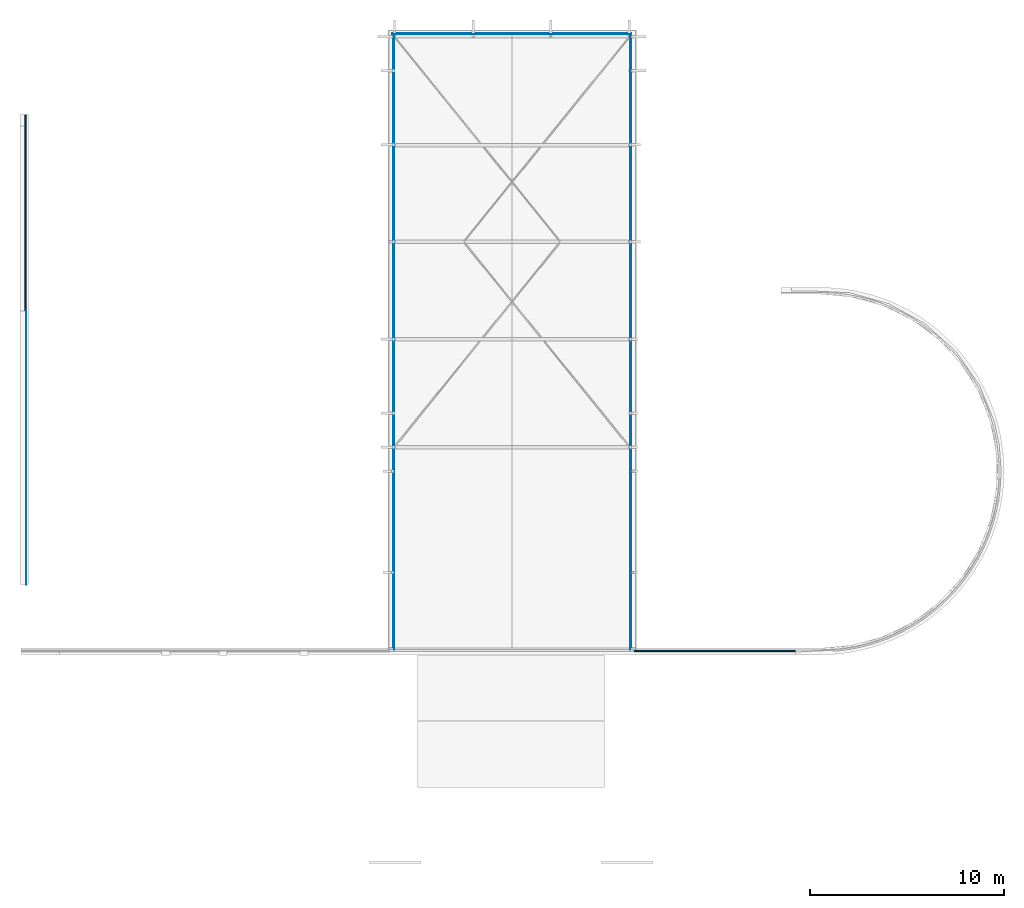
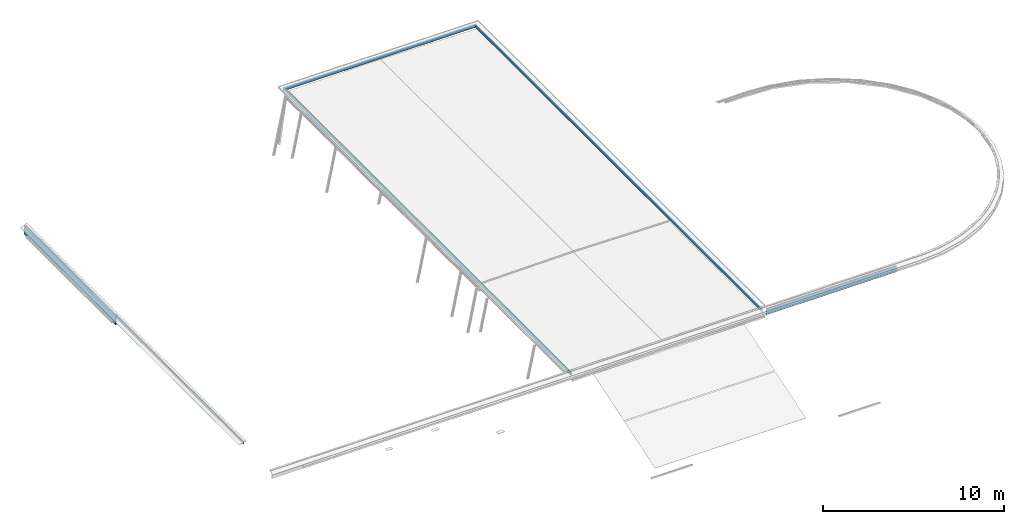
# One storey, part 3 of 5: 11 walls, 2 openings.
"""IFC2X3 building model written with IfcOpenShell, lengths in millimetres."""

from ifc_helpers import new_model, entity, si_unit, converted_unit, derived_unit, direction, frame, frame_2d, origin, place, context, subcontext, project, spatial, polyline, rectangle, extrude, clip, bounded_halfspace, material, layer, layer_set, layer_usage, type_object, element, save


model = new_model("IFC2X3")

# Units and contexts
model_context = context("Model", 3, precision=0.01, world=origin(), true_north=direction((6.12303176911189e-17, 1.0)))
body_context = subcontext(model_context, "Body", "Model", "MODEL_VIEW")
ifc_project = project(units=[si_unit("LENGTHUNIT", "METRE", prefix="MILLI"), si_unit("AREAUNIT", "SQUARE_METRE"), si_unit("VOLUMEUNIT", "CUBIC_METRE"), converted_unit("PLANEANGLEUNIT", "DEGREE", entity("IfcRatioMeasure", 0.0174532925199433), si_unit("PLANEANGLEUNIT", "RADIAN"), dimensions=[0, 0, 0, 0, 0, 0, 0]), si_unit("MASSUNIT", "GRAM", prefix="KILO"), derived_unit("MASSDENSITYUNIT", [(si_unit("MASSUNIT", "GRAM", prefix="KILO"), 1), (si_unit("LENGTHUNIT", "METRE"), -3)]), derived_unit("MOMENTOFINERTIAUNIT", [(si_unit("LENGTHUNIT", "METRE"), 4)]), si_unit("TIMEUNIT", "SECOND"), si_unit("FREQUENCYUNIT", "HERTZ"), si_unit("THERMODYNAMICTEMPERATUREUNIT", "DEGREE_CELSIUS"), derived_unit("THERMALTRANSMITTANCEUNIT", [(si_unit("MASSUNIT", "GRAM", prefix="KILO"), 1), (si_unit("THERMODYNAMICTEMPERATUREUNIT", "KELVIN"), -1), (si_unit("TIMEUNIT", "SECOND"), -3)]), derived_unit("VOLUMETRICFLOWRATEUNIT", [(si_unit("LENGTHUNIT", "METRE"), 3), (si_unit("TIMEUNIT", "SECOND"), -1)]), si_unit("ELECTRICCURRENTUNIT", "AMPERE"), si_unit("ELECTRICVOLTAGEUNIT", "VOLT"), si_unit("POWERUNIT", "WATT"), si_unit("FORCEUNIT", "NEWTON", prefix="KILO"), si_unit("ILLUMINANCEUNIT", "LUX"), si_unit("LUMINOUSFLUXUNIT", "LUMEN"), si_unit("LUMINOUSINTENSITYUNIT", "CANDELA"), derived_unit("USERDEFINED", [(si_unit("MASSUNIT", "GRAM", prefix="KILO"), -1), (si_unit("LENGTHUNIT", "METRE"), -2), (si_unit("TIMEUNIT", "SECOND"), 3), (si_unit("LUMINOUSFLUXUNIT", "LUMEN"), 1)]), derived_unit("LINEARVELOCITYUNIT", [(si_unit("LENGTHUNIT", "METRE"), 1), (si_unit("TIMEUNIT", "SECOND"), -1)]), si_unit("PRESSUREUNIT", "PASCAL"), derived_unit("USERDEFINED", [(si_unit("LENGTHUNIT", "METRE"), -2), (si_unit("MASSUNIT", "GRAM", prefix="KILO"), 1), (si_unit("TIMEUNIT", "SECOND"), -2)]), derived_unit("LINEARFORCEUNIT", [(si_unit("MASSUNIT", "GRAM", prefix="KILO"), 1), (si_unit("LENGTHUNIT", "METRE"), 1), (si_unit("TIMEUNIT", "SECOND"), -2), (si_unit("LENGTHUNIT", "METRE"), -1)]), derived_unit("PLANARFORCEUNIT", [(si_unit("MASSUNIT", "GRAM", prefix="KILO"), 1), (si_unit("LENGTHUNIT", "METRE"), 1), (si_unit("TIMEUNIT", "SECOND"), -2), (si_unit("LENGTHUNIT", "METRE"), -2)])], contexts=[model_context])

# Site, building, storey
site_placement = place(None, origin())
site = spatial("IfcSite", under=ifc_project, at=site_placement, Name="Default", CompositionType="ELEMENT")
building_placement = place(site_placement, origin())
building = spatial("IfcBuilding", under=site, at=building_placement, Name="-", CompositionType="ELEMENT")
storey_placement = place(building_placement, frame((0.0, 0.0, 6070.0)))
storey = spatial("IfcBuildingStorey", under=building, at=storey_placement, Name="02 tweede verdieping", CompositionType="ELEMENT", Elevation=6070.00000000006)

# Walls
ifc_material_1 = material(Name="n2_bitumen_dak bedekking")
ifc_layer_1 = layer(ifc_material_1, 6.0)
ifc_layer_set_1 = layer_set([ifc_layer_1], Name="Basic Wall:47.11_2 laagse APP dakbedekking")
ifc_layer_usage_1 = layer_usage(ifc_layer_set_1, "AXIS2", "NEGATIVE", 3.0)
wall_type_1 = type_object("IfcWallType", Name="Basic Wall:47.11_2 laagse APP dakbedekking", PredefinedType="STANDARD", material=ifc_layer_set_1)
wall_1_placement = place(storey_placement, frame((28725.9130607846, 10431.124095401, 258.804883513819), z_axis=(0.0, 0.0, 1.0), x_axis=(0.0, 1.0, 0.0)))
element("IfcWallStandardCase", 1, at=wall_1_placement, inside=storey, type_object=wall_type_1, material=ifc_layer_usage_1, Name="Basic Wall:47.11_2 laagse APP dakbedekking", ObjectType="Basic Wall:47.11_2 laagse APP dakbedekking", context=body_context, shape_type="SweptSolid", body=[
    extrude(rectangle(XDim=31675.285998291, YDim=5.99999999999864, at=frame_2d((15837.6429991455, 4.2410519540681e-14), x_axis=(-1.0, 0.0))), origin(), (0.0, 0.0, 1.0), 221.195116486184),
])
ifc_layer_usage_2 = layer_usage(ifc_layer_set_1, "AXIS2", "NEGATIVE", 3.0)
wall_2_placement = place(storey_placement, frame((40868.4340228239, 10431.1240954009, 258.804883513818), z_axis=(0.0, 0.0, 1.0), x_axis=(0.0, 1.0, 0.0)))
element("IfcWallStandardCase", 2, at=wall_2_placement, inside=storey, type_object=wall_type_1, material=ifc_layer_usage_2, Name="Basic Wall:47.11_2 laagse APP dakbedekking", ObjectType="Basic Wall:47.11_2 laagse APP dakbedekking", context=body_context, shape_type="SweptSolid", body=[
    extrude(rectangle(XDim=31675.285998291, YDim=5.99999999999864, at=frame_2d((15837.6429991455, -1.86517468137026e-14), x_axis=(-1.0, 0.0))), origin(), (0.0, 0.0, 1.0), 221.195116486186),
])

# Wall, openings
ifc_layer_usage_3 = layer_usage(ifc_layer_set_1, "AXIS2", "NEGATIVE", 3.0)
wall_3_placement = place(storey_placement, frame((40916.8183703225, 42103.4100936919, 258.804883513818), z_axis=(0.0, 0.0, 1.0), x_axis=(-1.0, 0.0, 0.0)))
wall_3 = element("IfcWallStandardCase", 3, at=wall_3_placement, inside=storey, type_object=wall_type_1, material=ifc_layer_usage_3, Name="Basic Wall:47.11_2 laagse APP dakbedekking", ObjectType="Basic Wall:47.11_2 laagse APP dakbedekking", context=body_context, shape_type="SweptSolid", body=[
    extrude(rectangle(XDim=12279.5474256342, YDim=5.99999999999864, at=frame_2d((6139.7737128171, -4.44089209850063e-14), x_axis=(-1.0, 0.0))), origin(), (0.0, 0.0, 1.0), 221.195116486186),
])
opening_1_placement = place(storey_placement, frame((40916.8183703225, 42103.4100936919, 258.804883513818), z_axis=(0.0, 0.0, 1.0), x_axis=(-1.0, 0.0, 0.0)))
element("IfcOpeningElement", 4, at=opening_1_placement, cuts=wall_3, Name="Basic Wall:47.11_2 laagse APP dakbedekking:1", ObjectType="Opening", context=body_context, shape_type="SweptSolid", body=[
    extrude(rectangle(XDim=221.195116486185, YDim=5.99999999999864, at=frame_2d((5.40012479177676e-13, 0.0), x_axis=(1.0, 0.0))), frame((51.3843474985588, 0.0, 110.597558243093), z_axis=(-1.0, 0.0, 0.0), x_axis=(0.0, 0.0, 1.0)), (0.0, 0.0, 1.0), 5.99999999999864),
])
opening_2_placement = place(storey_placement, frame((40916.8183703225, 42103.4100936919, 258.804883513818), z_axis=(0.0, 0.0, 1.0), x_axis=(-1.0, 0.0, 0.0)))
element("IfcOpeningElement", 5, at=opening_2_placement, cuts=wall_3, Name="Basic Wall:47.11_2 laagse APP dakbedekking:2", ObjectType="Opening", context=body_context, shape_type="SweptSolid", body=[
    extrude(rectangle(XDim=221.195116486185, YDim=5.99999999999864, at=frame_2d((5.40012479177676e-13, 0.0), x_axis=(1.0, 0.0))), frame((12193.9053095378, 0.0, 110.597558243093), z_axis=(-1.0, 0.0, 0.0), x_axis=(0.0, 0.0, 1.0)), (0.0, 0.0, 1.0), 5.99999999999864),
])

# Walls
ifc_material_2 = material(Name="NLRS_n7_isolatie PIR_gen")
ifc_layer_2 = layer(ifc_material_2, 40.0)
ifc_layer_set_2 = layer_set([ifc_layer_2], Name="Basic Wall:NLRS_22_WA_LB_isolatie PIR 40mm")
ifc_layer_usage_4 = layer_usage(ifc_layer_set_2, "AXIS2", "NEGATIVE", 20.0)
wall_type_2 = type_object("IfcWallType", Name="Basic Wall:NLRS_22_WA_LB_isolatie PIR 40mm", PredefinedType="STANDARD", material=ifc_layer_set_2)
wall_4_placement = place(storey_placement, frame((28702.9130607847, 42146.410093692, 252.0), z_axis=(0.0, 0.0, 1.0), x_axis=(0.0, -1.0, 0.0)))
element("IfcWallStandardCase", 6, at=wall_4_placement, inside=storey, type_object=wall_type_2, material=ifc_layer_usage_4, Name="Basic Wall:NLRS_22_WA_LB_isolatie PIR 40mm", ObjectType="Basic Wall:NLRS_22_WA_LB_isolatie PIR 40mm", context=body_context, shape_type="Clipping", body=[
    clip(clip(extrude(rectangle(XDim=21385.0898432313, YDim=39.9999999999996, at=frame_2d((10692.5449216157, -4.08562073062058e-14), x_axis=(-1.0, 0.0))), origin(), (0.0, 0.0, 1.0), 213.000000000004), bounded_halfspace(frame((46.0, 20.0, 2.57782080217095), z_axis=(-1.0, 0.0, 0.0), x_axis=(0.0, 0.999904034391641, -0.0138535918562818)), True, frame((46.0, 20.0, 2.57782080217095), z_axis=(-1.0, 0.0, 0.0), x_axis=(0.0, 0.999904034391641, -0.0138535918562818)), polyline([(0.0, 0.0), (0.0357120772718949, 2.57757342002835), (-39.9604492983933, 3.13171709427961), (-39.9884837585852, 1.10828734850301), (0.0, 0.0)]))), bounded_halfspace(frame((46.0, -20.0, 2.02362394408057), z_axis=(0.0, -0.0138535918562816, 0.999904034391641), x_axis=(-1.0, 0.0, 0.0)), True, frame((46.0, -20.0, 2.02362394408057), z_axis=(0.0, -0.0138535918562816, 0.999904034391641), x_axis=(-1.0, 0.0, 0.0)), polyline([(0.0, 0.0), (-21339.0898432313, 0.0), (-21339.0898432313, -40.0038389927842), (0.0, -40.0038389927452), (0.0, 0.0)]))),
])
ifc_layer_usage_5 = layer_usage(ifc_layer_set_2, "AXIS2", "NEGATIVE", 20.0)
wall_5_placement = place(storey_placement, frame((28702.9130607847, 20761.3202504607, 256.023623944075), z_axis=(0.0, 0.0, 1.0), x_axis=(0.0, -1.0, 0.0)))
element("IfcWallStandardCase", 7, at=wall_5_placement, inside=storey, type_object=wall_type_2, material=ifc_layer_usage_5, Name="Basic Wall:NLRS_22_WA_LB_isolatie PIR 40mm", ObjectType="Basic Wall:NLRS_22_WA_LB_isolatie PIR 40mm", context=body_context, shape_type="Clipping", body=[
    clip(extrude(rectangle(XDim=10219.4195468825, YDim=39.9999999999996, at=frame_2d((5109.70977344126, 7.28306304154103e-13), x_axis=(-1.0, 0.0))), origin(), (0.0, 0.0, 1.0), 208.976376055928), bounded_halfspace(frame((10219.4195468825, -20.0, 0.0), z_axis=(0.0, -0.0138535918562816, 0.999904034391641), x_axis=(-1.0, 0.0, 0.0)), True, frame((10219.4195468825, -20.0, 0.0), z_axis=(0.0, -0.0138535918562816, 0.999904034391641), x_axis=(-1.0, 0.0, 0.0)), polyline([(0.0, 0.0), (0.0, -40.0038389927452), (10219.4195468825, -40.0038389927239), (10219.4195468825, 0.0), (0.0, 0.0)]))),
])
ifc_layer_usage_6 = layer_usage(ifc_layer_set_2, "AXIS2", "NEGATIVE", 20.0)
wall_6_placement = place(storey_placement, frame((40891.4340228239, 20761.3202504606, 255.603053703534), z_axis=(0.0, 0.0, 1.0), x_axis=(0.0, -1.0, 0.0)))
element("IfcWallStandardCase", 8, at=wall_6_placement, inside=storey, type_object=wall_type_2, material=ifc_layer_usage_6, Name="Basic Wall:NLRS_22_WA_LB_isolatie PIR 40mm", ObjectType="Basic Wall:NLRS_22_WA_LB_isolatie PIR 40mm", context=body_context, shape_type="Clipping", body=[
    clip(extrude(rectangle(XDim=10219.4195468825, YDim=40.0000000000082, at=frame_2d((5109.70977344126, 2.89190893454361e-12), x_axis=(-1.0, 0.0))), origin(), (0.0, 0.0, 1.0), 209.396946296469), bounded_halfspace(frame((10219.4195468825, -20.0, 0.554196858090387), z_axis=(0.0, 0.0138535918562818, 0.999904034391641), x_axis=(-1.0, 0.0, 0.0)), True, frame((10219.4195468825, -20.0, 0.554196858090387), z_axis=(0.0, 0.0138535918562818, 0.999904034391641), x_axis=(-1.0, 0.0, 0.0)), polyline([(0.0, 0.0), (0.0, -40.0038389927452), (10219.4195468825, -40.0038389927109), (10219.4195468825, 0.0), (0.0, 0.0)]))),
])
ifc_layer_usage_7 = layer_usage(ifc_layer_set_2, "AXIS2", "NEGATIVE", 20.0)
wall_7_placement = place(storey_placement, frame((28631.2709446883, 42126.410093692, 252.0)))
element("IfcWallStandardCase", 9, at=wall_7_placement, inside=storey, type_object=wall_type_2, material=ifc_layer_usage_7, Name="Basic Wall:NLRS_22_WA_LB_isolatie PIR 40mm", ObjectType="Basic Wall:NLRS_22_WA_LB_isolatie PIR 40mm", context=body_context, shape_type="SweptSolid", body=[
    extrude(rectangle(XDim=12291.5474256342, YDim=40.0000000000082, at=frame_2d((6145.77371281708, -2.18491891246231e-12), x_axis=(-1.0, 0.0))), origin(), (0.0, 0.0, 1.0), 213.000000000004),
])
ifc_layer_usage_8 = layer_usage(ifc_layer_set_2, "AXIS2", "NEGATIVE", 20.0)
wall_8_placement = place(storey_placement, frame((40891.4340228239, 42146.4100936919, 252.0), z_axis=(0.0, 0.0, 1.0), x_axis=(0.0, -1.0, 0.0)))
element("IfcWallStandardCase", 10, at=wall_8_placement, inside=storey, type_object=wall_type_2, material=ifc_layer_usage_8, Name="Basic Wall:NLRS_22_WA_LB_isolatie PIR 40mm", ObjectType="Basic Wall:NLRS_22_WA_LB_isolatie PIR 40mm", context=body_context, shape_type="Clipping", body=[
    clip(clip(extrude(rectangle(XDim=21385.0898432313, YDim=40.0000000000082, at=frame_2d((10692.5449216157, 2.1227464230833e-12), x_axis=(-1.0, 0.0))), origin(), (0.0, 0.0, 1.0), 213.000000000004), bounded_halfspace(frame((46.0, 20.0, 1.60305370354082), z_axis=(-1.0, 0.0, 0.0), x_axis=(0.0, 0.999904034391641, -0.0138535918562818)), True, frame((46.0, 20.0, 1.60305370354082), z_axis=(-1.0, 0.0, 0.0), x_axis=(0.0, 0.999904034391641, -0.0138535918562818)), polyline([(0.0, 0.0), (0.0222080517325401, 1.60289986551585), (-39.9739533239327, 2.15704353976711), (-40.0038389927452, 0.0), (0.0, 0.0)]))), bounded_halfspace(frame((46.0, -20.0, 2.15725056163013), z_axis=(0.0, 0.0138535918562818, 0.999904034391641), x_axis=(-1.0, 0.0, 0.0)), True, frame((46.0, -20.0, 2.15725056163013), z_axis=(0.0, 0.0138535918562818, 0.999904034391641), x_axis=(-1.0, 0.0, 0.0)), polyline([(0.0, 0.0), (-21339.0898432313, 0.0), (-21339.0898432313, -40.0038389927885), (0.0, -40.0038389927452), (0.0, 0.0)]))),
])
ifc_material_3 = material(Name="NLRS_i4_hout_multiplex")
ifc_layer_3 = layer(ifc_material_3, 10.0)
ifc_material_4 = material(Name="NLRS_m1_isolatie")
ifc_layer_4 = layer(ifc_material_4, 58.0)
ifc_layer_5 = layer(ifc_material_3, 10.0)
ifc_layer_set_3 = layer_set([ifc_layer_3, ifc_layer_4, ifc_layer_5], Name="Basic Wall:NLRS_21_WA_HSB-wand_78mm")
ifc_layer_usage_9 = layer_usage(ifc_layer_set_3, "AXIS2", "NEGATIVE", 39.0)
wall_type_3 = type_object("IfcWallType", Name="Basic Wall:NLRS_21_WA_HSB-wand_78mm", PredefinedType="STANDARD", material=ifc_layer_set_3)
wall_9_placement = place(storey_placement, frame((49358.1883944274, 10363.124095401, 99.1999999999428), z_axis=(0.0, 0.0, 1.0), x_axis=(-1.0, 0.0, 0.0)))
element("IfcWallStandardCase", 11, at=wall_9_placement, inside=storey, type_object=wall_type_3, material=ifc_layer_usage_9, Name="Basic Wall:NLRS_21_WA_HSB-wand_78mm", ObjectType="Basic Wall:NLRS_21_WA_HSB-wand_78mm", context=body_context, shape_type="SweptSolid", body=[
    extrude(rectangle(XDim=8295.0, YDim=77.9999999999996, at=frame_2d((4147.5, 7.7804429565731e-13), x_axis=(-1.0, 0.0))), origin(), (0.0, 0.0, 1.0), 400.80000000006),
])
ifc_layer_usage_10 = layer_usage(ifc_layer_set_3, "AXIS2", "NEGATIVE", 39.0)
wall_10_placement = place(storey_placement, frame((9747.0, 37955.7837398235, -240.0), z_axis=(0.0, 0.0, 1.0), x_axis=(0.0, -1.0, 0.0)))
element("IfcWallStandardCase", 12, at=wall_10_placement, inside=storey, type_object=wall_type_3, material=ifc_layer_usage_10, Name="Basic Wall:NLRS_21_WA_HSB-wand_78mm", ObjectType="Basic Wall:NLRS_21_WA_HSB-wand_78mm", context=body_context, shape_type="SweptSolid", body=[
    extrude(rectangle(XDim=10099.7971631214, YDim=77.9999999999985, at=frame_2d((5049.89858156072, -5.43565192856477e-13), x_axis=(-1.0, 0.0))), origin(), (0.0, 0.0, 1.0), 594.122500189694),
])
ifc_layer_usage_11 = layer_usage(ifc_layer_set_3, "AXIS2", "NEGATIVE", 39.0)
wall_11_placement = place(storey_placement, frame((9747.0, 27855.9865767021, 205.704812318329), z_axis=(0.0, 0.0, 1.0), x_axis=(0.0, -1.0, 0.0)))
element("IfcWallStandardCase", 13, at=wall_11_placement, inside=storey, type_object=wall_type_3, material=ifc_layer_usage_11, Name="Basic Wall:NLRS_21_WA_HSB-wand_78mm", ObjectType="Basic Wall:NLRS_21_WA_HSB-wand_78mm", context=body_context, shape_type="Clipping", body=[
    clip(extrude(rectangle(XDim=14078.5380452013, YDim=78.0000000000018, at=frame_2d((7039.26902260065, 1.08002495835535e-12), x_axis=(-1.0, 0.0))), origin(), (0.0, 0.0, 1.0), 148.41768787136), bounded_halfspace(frame((14078.5380452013, 32.7499999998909, 148.41768787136), z_axis=(0.0, 1.0, 0.0), x_axis=(-1.0, 0.0, 0.0)), True, frame((14078.5380452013, 32.7499999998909, 148.41768787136), z_axis=(0.0, 1.0, 0.0), x_axis=(-1.0, 0.0, 0.0)), polyline([(0.0, 0.0), (0.0, -148.41768787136), (14078.5380452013, -148.41768787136), (14078.5380452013, 0.0), (0.0, 0.0)]))),
])

save(model, "model.ifc")
